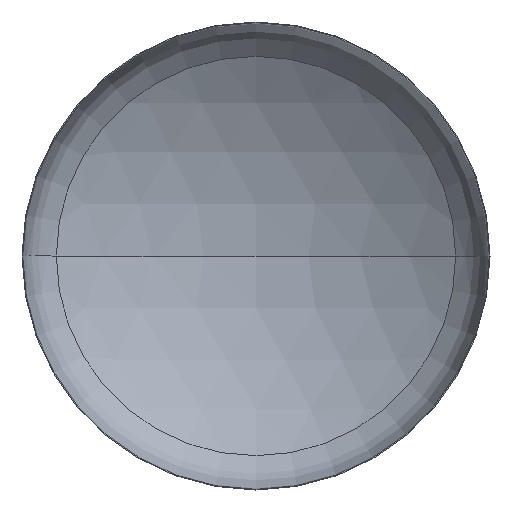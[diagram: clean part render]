
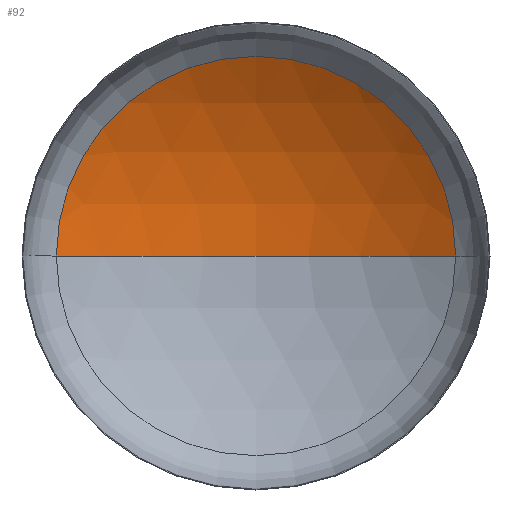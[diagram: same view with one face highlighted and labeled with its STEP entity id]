
A CAD part, front view. The second image highlights one B-rep face of the part: STEP entity #92.
In plain terms, the highlighted spherical face has radius 5200 mm.
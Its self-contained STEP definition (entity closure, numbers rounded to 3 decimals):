
#2 = DIRECTION ( 'NONE',  ( -1., 0., 0. ) ) ;
#6 = ORIENTED_EDGE ( 'NONE', *, *, #216, .F. ) ;
#7 = CIRCLE ( 'NONE', #116, 2773.333 ) ;
#34 = CARTESIAN_POINT ( 'NONE',  ( 0., -3522.802, 0. ) ) ;
#37 = VERTEX_POINT ( 'NONE', #192 ) ;
#56 = EDGE_LOOP ( 'NONE', ( #6, #278, #329 ) ) ;
#69 = SPHERICAL_SURFACE ( 'NONE', #164, 5200. ) ;
#92 = ADVANCED_FACE ( 'NONE', ( #367 ), #69, .F. ) ;
#105 = DIRECTION ( 'NONE',  ( 0., 0., -1. ) ) ;
#108 = AXIS2_PLACEMENT_3D ( 'NONE', #177, #350, #210 ) ;
#116 = AXIS2_PLACEMENT_3D ( 'NONE', #377, #241, #402 ) ;
#125 = AXIS2_PLACEMENT_3D ( 'NONE', #286, #105, #310 ) ;
#140 = VERTEX_POINT ( 'NONE', #194 ) ;
#144 = CIRCLE ( 'NONE', #125, 5200. ) ;
#164 = AXIS2_PLACEMENT_3D ( 'NONE', #34, #168, #2 ) ;
#168 = DIRECTION ( 'NONE',  ( 0., 0., -1. ) ) ;
#177 = CARTESIAN_POINT ( 'NONE',  ( 0., -3522.802, 0. ) ) ;
#192 = CARTESIAN_POINT ( 'NONE',  ( 2773.333, 875.905, 0. ) ) ;
#194 = CARTESIAN_POINT ( 'NONE',  ( 0., 1677.198, 0. ) ) ;
#206 = EDGE_CURVE ( 'NONE', #37, #386, #7, .T. ) ;
#209 = EDGE_CURVE ( 'NONE', #140, #37, #144, .T. ) ;
#210 = DIRECTION ( 'NONE',  ( 1., 0., 0. ) ) ;
#216 = EDGE_CURVE ( 'NONE', #140, #386, #232, .T. ) ;
#222 = CARTESIAN_POINT ( 'NONE',  ( -2773.333, 875.905, 0. ) ) ;
#232 = CIRCLE ( 'NONE', #108, 5200. ) ;
#241 = DIRECTION ( 'NONE',  ( 0., -1., 0. ) ) ;
#278 = ORIENTED_EDGE ( 'NONE', *, *, #209, .T. ) ;
#286 = CARTESIAN_POINT ( 'NONE',  ( 0., -3522.802, 0. ) ) ;
#310 = DIRECTION ( 'NONE',  ( -1., 0., 0. ) ) ;
#329 = ORIENTED_EDGE ( 'NONE', *, *, #206, .T. ) ;
#350 = DIRECTION ( 'NONE',  ( 0., 0., 1. ) ) ;
#367 = FACE_OUTER_BOUND ( 'NONE', #56, .T. ) ;
#377 = CARTESIAN_POINT ( 'NONE',  ( 0., 875.905, 0. ) ) ;
#386 = VERTEX_POINT ( 'NONE', #222 ) ;
#402 = DIRECTION ( 'NONE',  ( 1., 0., 0. ) ) ;
